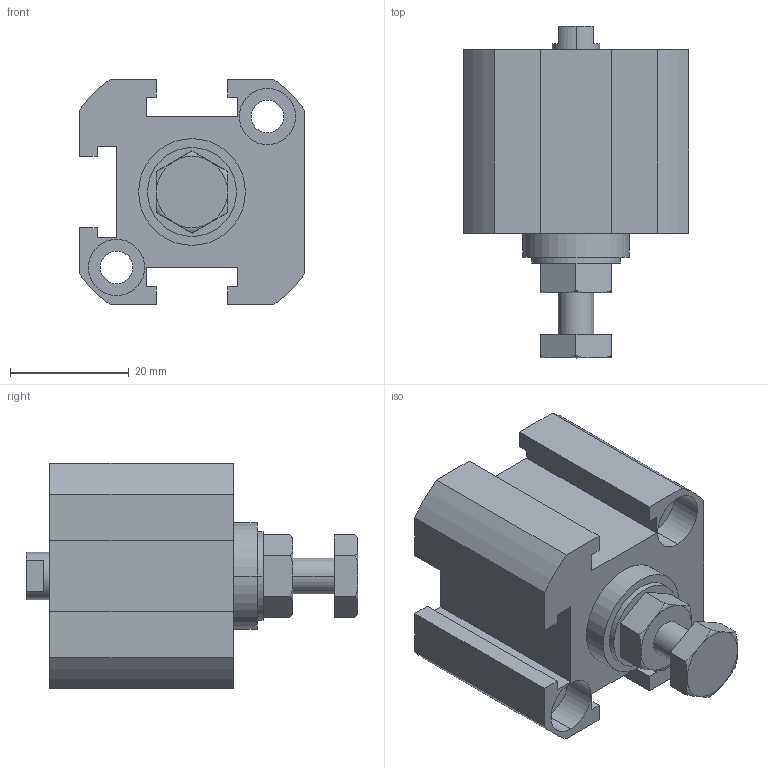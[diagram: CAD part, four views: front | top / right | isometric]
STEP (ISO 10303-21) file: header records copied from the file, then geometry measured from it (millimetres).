
FILE_DESCRIPTION (( 'STEP AP203' ), '1' );
FILE_NAME ('XCA2-20-10.STEP', '2016-05-24T02:30:25', ( '' ), ( '' ), 'SwSTEP 2.0', 'SolidWorks 2014', '' );
FILE_SCHEMA (( 'CONFIG_CONTROL_DESIGN' ));
Length unit declared in the file: millimetre
Products named in the file (3): XC#2-20-10; X#A2-20-H; XCA2-20-10
Assembly tree (2 placements, depth 2):
  XCA2-20-10
    XC#2-20-10
    X#A2-20-H
Bounding box: 38 x 56 x 38 mm (x, y, z)
Volume: 34503.7 mm3; surface area: 11909.9 mm2
Topology: 2 solids, 2 shells, 125 faces, 305 edges, 194 vertices
Faces by surface type: plane 62, cylinder 45, torus 12, cone 6
Entity records: 4161 total; most frequent: CARTESIAN_POINT 887, DIRECTION 642, ORIENTED_EDGE 598, EDGE_CURVE 299, AXIS2_PLACEMENT_3D 237, VERTEX_POINT 194, VECTOR 168, LINE 168
